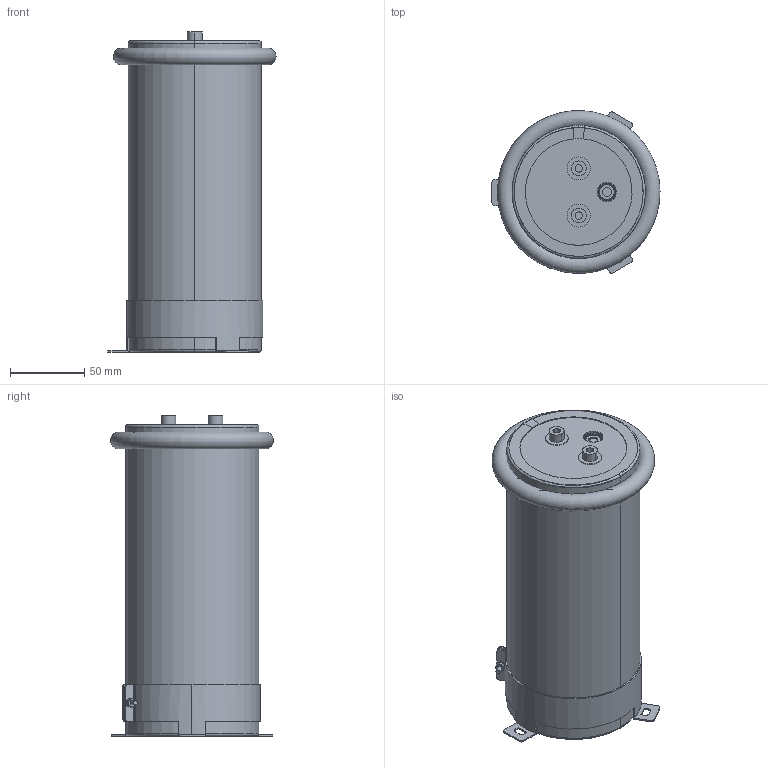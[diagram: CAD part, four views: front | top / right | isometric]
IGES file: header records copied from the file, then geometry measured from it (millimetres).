
Start section: 3D InterOp IGES (v. 2019 1.0.2), Spatial Corp. Copyright (c) 1999-2017.
Global section: file name: 90x210_Screw.igs; native system: Spatial Corp.; preprocessor: 3D InterOp ACIS/IGES; author: Noname; organization: Noname; date: 20220314.174547; units: millimetre
Bounding box: 113.35 x 109.7 x 216 mm (x, y, z)
Volume: 1680649.9 mm3; surface area: 357901.7 mm2
Topology: 9 solids, 9 shells, 352 faces, 953 edges, 591 vertices
Faces by surface type: plane 112, cylinder 110, torus 90, cone 38, sphere 2
